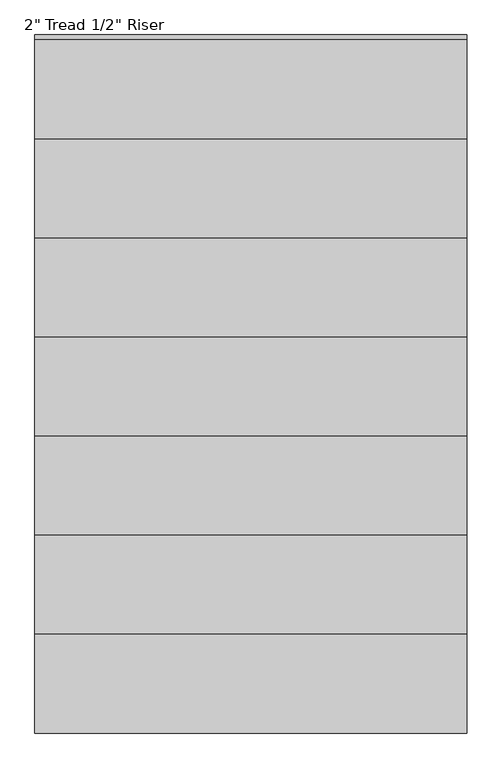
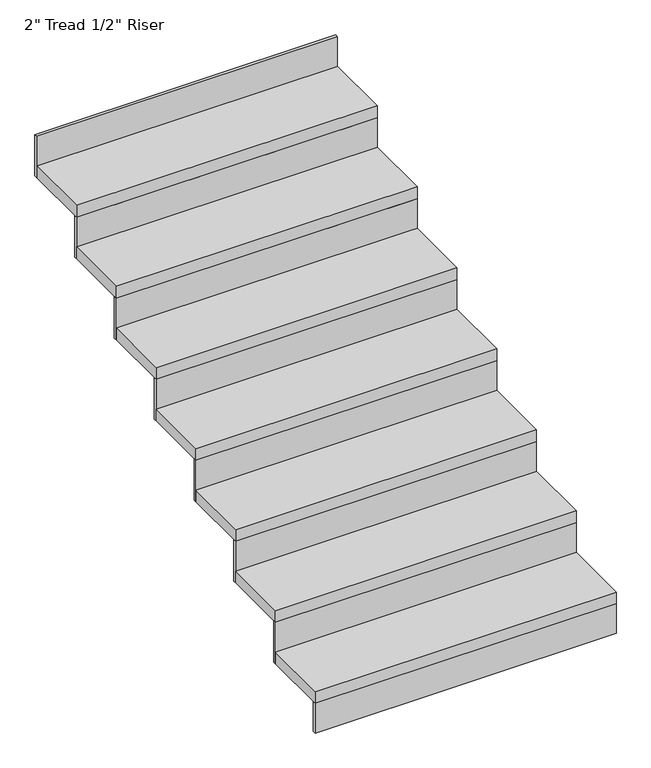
"""IFC4 building model written with IfcOpenShell, lengths in millimetres: stair flight geometry."""

from ifc_helpers import new_model, si_unit, frame, origin, origin_with_axes, place, context, project, spatial, polyline, outline, extrude, source, transform, mapped, element, save


def stair_flight_54686f99(model_context):
    return source(origin(), model_context, "Body", "SweptSolid", [
        extrude(outline(polyline([(-5597.6915125, 7994.7006), (-5597.6915125, 7982.0006), (-6816.8915125, 7982.0006), (-6816.8915125, 7994.7006), (-5597.6915125, 7994.7006)])), origin_with_axes(), (0.0, 0.0, 1.0), 127.0),
        extrude(outline(polyline([(-6816.8915125, 8261.4006), (-5597.6915125, 8261.4006), (-5597.6915125, 7982.0006), (-6816.8915125, 7982.0006), (-6816.8915125, 8261.4006)])), frame((0.0, 0.0, 127.0), z_axis=(0.0, 0.0, 1.0), x_axis=(1.0, 0.0, 0.0)), (0.0, 0.0, 1.0), 50.8),
        extrude(outline(polyline([(-5597.6915125, 8274.1006), (-5597.6915125, 8261.4006), (-6816.8915125, 8261.4006), (-6816.8915125, 8274.1006), (-5597.6915125, 8274.1006)])), frame((0.0, 0.0, 127.0), z_axis=(0.0, 0.0, 1.0), x_axis=(1.0, 0.0, 0.0)), (0.0, 0.0, 1.0), 177.8),
        extrude(outline(polyline([(-6816.8915125, 8540.8006), (-5597.6915125, 8540.8006), (-5597.6915125, 8261.4006), (-6816.8915125, 8261.4006), (-6816.8915125, 8540.8006)])), frame((0.0, 0.0, 304.8), z_axis=(0.0, 0.0, 1.0), x_axis=(1.0, 0.0, 0.0)), (0.0, 0.0, 1.0), 50.8),
        extrude(outline(polyline([(-5597.6915125, 8553.5006), (-5597.6915125, 8540.8006), (-6816.8915125, 8540.8006), (-6816.8915125, 8553.5006), (-5597.6915125, 8553.5006)])), frame((0.0, 0.0, 304.8), z_axis=(0.0, 0.0, 1.0), x_axis=(1.0, 0.0, 0.0)), (0.0, 0.0, 1.0), 177.8),
        extrude(outline(polyline([(-6816.8915125, 8820.2006), (-5597.6915125, 8820.2006), (-5597.6915125, 8540.8006), (-6816.8915125, 8540.8006), (-6816.8915125, 8820.2006)])), frame((0.0, 0.0, 482.6), z_axis=(0.0, 0.0, 1.0), x_axis=(1.0, 0.0, 0.0)), (0.0, 0.0, 1.0), 50.8),
        extrude(outline(polyline([(-5597.6915125, 8832.9006), (-5597.6915125, 8820.2006), (-6816.8915125, 8820.2006), (-6816.8915125, 8832.9006), (-5597.6915125, 8832.9006)])), frame((0.0, 0.0, 482.6), z_axis=(0.0, 0.0, 1.0), x_axis=(1.0, 0.0, 0.0)), (0.0, 0.0, 1.0), 177.8),
        extrude(outline(polyline([(-6816.8915125, 9099.6006), (-5597.6915125, 9099.6006), (-5597.6915125, 8820.2006), (-6816.8915125, 8820.2006), (-6816.8915125, 9099.6006)])), frame((0.0, 0.0, 660.4), z_axis=(0.0, 0.0, 1.0), x_axis=(1.0, 0.0, 0.0)), (0.0, 0.0, 1.0), 50.8),
        extrude(outline(polyline([(-5597.6915125, 9112.3006), (-5597.6915125, 9099.6006), (-6816.8915125, 9099.6006), (-6816.8915125, 9112.3006), (-5597.6915125, 9112.3006)])), frame((0.0, 0.0, 660.4), z_axis=(0.0, 0.0, 1.0), x_axis=(1.0, 0.0, 0.0)), (0.0, 0.0, 1.0), 177.8),
        extrude(outline(polyline([(-6816.8915125, 9379.0006), (-5597.6915125, 9379.0006), (-5597.6915125, 9099.6006), (-6816.8915125, 9099.6006), (-6816.8915125, 9379.0006)])), frame((0.0, 0.0, 838.2), z_axis=(0.0, 0.0, 1.0), x_axis=(1.0, 0.0, 0.0)), (0.0, 0.0, 1.0), 50.8),
        extrude(outline(polyline([(-5597.6915125, 9391.7006), (-5597.6915125, 9379.0006), (-6816.8915125, 9379.0006), (-6816.8915125, 9391.7006), (-5597.6915125, 9391.7006)])), frame((0.0, 0.0, 838.2), z_axis=(0.0, 0.0, 1.0), x_axis=(1.0, 0.0, 0.0)), (0.0, 0.0, 1.0), 177.8),
        extrude(outline(polyline([(-6816.8915125, 9658.4006), (-5597.6915125, 9658.4006), (-5597.6915125, 9379.0006), (-6816.8915125, 9379.0006), (-6816.8915125, 9658.4006)])), frame((0.0, 0.0, 1016.0), z_axis=(0.0, 0.0, 1.0), x_axis=(1.0, 0.0, 0.0)), (0.0, 0.0, 1.0), 50.8),
        extrude(outline(polyline([(-5597.6915125, 9671.1006), (-5597.6915125, 9658.4006), (-6816.8915125, 9658.4006), (-6816.8915125, 9671.1006), (-5597.6915125, 9671.1006)])), frame((0.0, 0.0, 1016.0), z_axis=(0.0, 0.0, 1.0), x_axis=(1.0, 0.0, 0.0)), (0.0, 0.0, 1.0), 177.8),
        extrude(outline(polyline([(-5597.6915125, 9950.5006), (-5597.6915125, 9937.8006), (-6816.8915125, 9937.8006), (-6816.8915125, 9950.5006), (-5597.6915125, 9950.5006)])), frame((0.0, 0.0, 1193.8), z_axis=(0.0, 0.0, 1.0), x_axis=(1.0, 0.0, 0.0)), (0.0, 0.0, 1.0), 177.8),
        extrude(outline(polyline([(-6816.8915125, 9937.8006), (-5597.6915125, 9937.8006), (-5597.6915125, 9658.4006), (-6816.8915125, 9658.4006), (-6816.8915125, 9937.8006)])), frame((0.0, 0.0, 1193.8), z_axis=(0.0, 0.0, 1.0), x_axis=(1.0, 0.0, 0.0)), (0.0, 0.0, 1.0), 50.8),
    ])


if __name__ == "__main__":
    model = new_model("IFC4")
    model_context = context("Model", 3, world=origin())
    ifc_project = project(units=[si_unit("LENGTHUNIT", "METRE", prefix="MILLI")], contexts=[model_context])
    site = spatial("IfcSite", under=ifc_project)
    building = spatial("IfcBuilding", under=site)
    placement = place(None, origin())
    stair_flight_shape = stair_flight_54686f99(model_context)
    element("IfcStairFlight", 1, ObjectType="2\" Tread 1/2\" Riser", at=placement, inside=building, context=model_context, shape_type="MappedRepresentation", body=[
        mapped(stair_flight_shape, transform((0.0, 0.0, 0.0), x_axis=(1.0, 0.0, 0.0), y_axis=(0.0, 1.0, 0.0), z_axis=(0.0, 0.0, 1.0))),
    ])
    save(model, "model.ifc")
